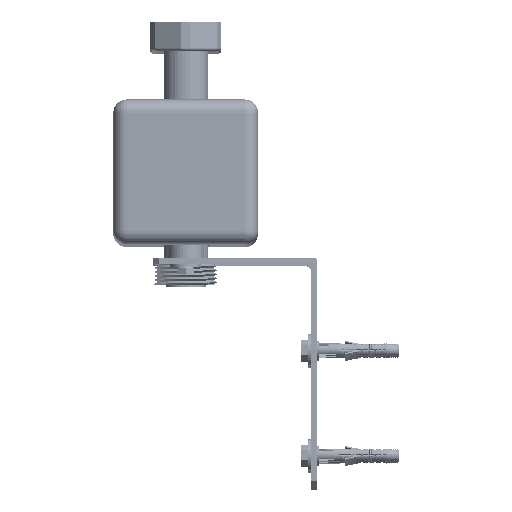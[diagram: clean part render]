
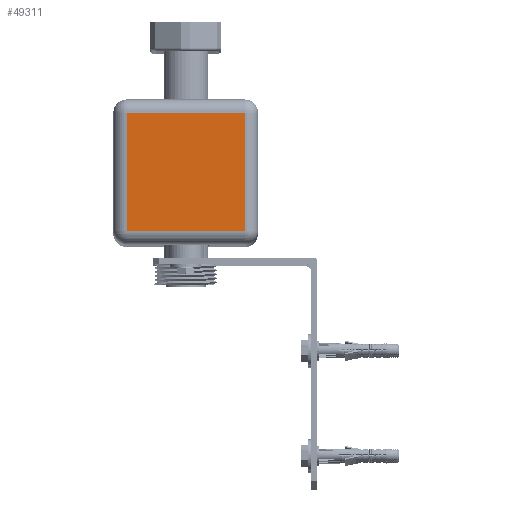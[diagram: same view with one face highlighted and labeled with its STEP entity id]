
A CAD part, top view. The second image highlights one B-rep face of the part: STEP entity #49311.
In plain terms, the highlighted planar face has unit normal (0, 0, 1).
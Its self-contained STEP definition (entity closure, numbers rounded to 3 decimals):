
#48712=DIRECTION('',(0.,1.,0.));
#48713=VECTOR('',#48712,90.);
#48714=CARTESIAN_POINT('',(45.,-45.,25.));
#48715=LINE('',#48714,#48713);
#48720=DIRECTION('',(1.,0.,0.));
#48721=VECTOR('',#48720,90.);
#48722=CARTESIAN_POINT('',(-45.,-45.,25.));
#48723=LINE('',#48722,#48721);
#48758=DIRECTION('',(0.,-1.,0.));
#48759=VECTOR('',#48758,90.);
#48760=CARTESIAN_POINT('',(-45.,45.,25.));
#48761=LINE('',#48760,#48759);
#48781=DIRECTION('',(-1.,0.,0.));
#48782=VECTOR('',#48781,90.);
#48783=CARTESIAN_POINT('',(45.,45.,25.));
#48784=LINE('',#48783,#48782);
#49096=CARTESIAN_POINT('',(-45.,45.,25.));
#49097=VERTEX_POINT('',#49096);
#49098=CARTESIAN_POINT('',(45.,45.,25.));
#49099=VERTEX_POINT('',#49098);
#49102=CARTESIAN_POINT('',(45.,-45.,25.));
#49103=VERTEX_POINT('',#49102);
#49104=CARTESIAN_POINT('',(-45.,-45.,25.));
#49105=VERTEX_POINT('',#49104);
#49297=CARTESIAN_POINT('',(0.,0.,25.));
#49298=DIRECTION('',(0.,0.,1.));
#49299=DIRECTION('',(1.,0.,0.));
#49300=AXIS2_PLACEMENT_3D('',#49297,#49298,#49299);
#49301=PLANE('',#49300);
#49302=ORIENTED_EDGE('',*,*,#49287,.F.);
#49304=ORIENTED_EDGE('',*,*,#49303,.F.);
#49306=ORIENTED_EDGE('',*,*,#49305,.F.);
#49308=ORIENTED_EDGE('',*,*,#49307,.F.);
#49309=EDGE_LOOP('',(#49302,#49304,#49306,#49308));
#49310=FACE_OUTER_BOUND('',#49309,.F.);
#49311=ADVANCED_FACE('',(#49310),#49301,.T.);
#49287=EDGE_CURVE('',#49103,#49099,#48715,.T.);
#49303=EDGE_CURVE('',#49105,#49103,#48723,.T.);
#49305=EDGE_CURVE('',#49097,#49105,#48761,.T.);
#49307=EDGE_CURVE('',#49099,#49097,#48784,.T.);
